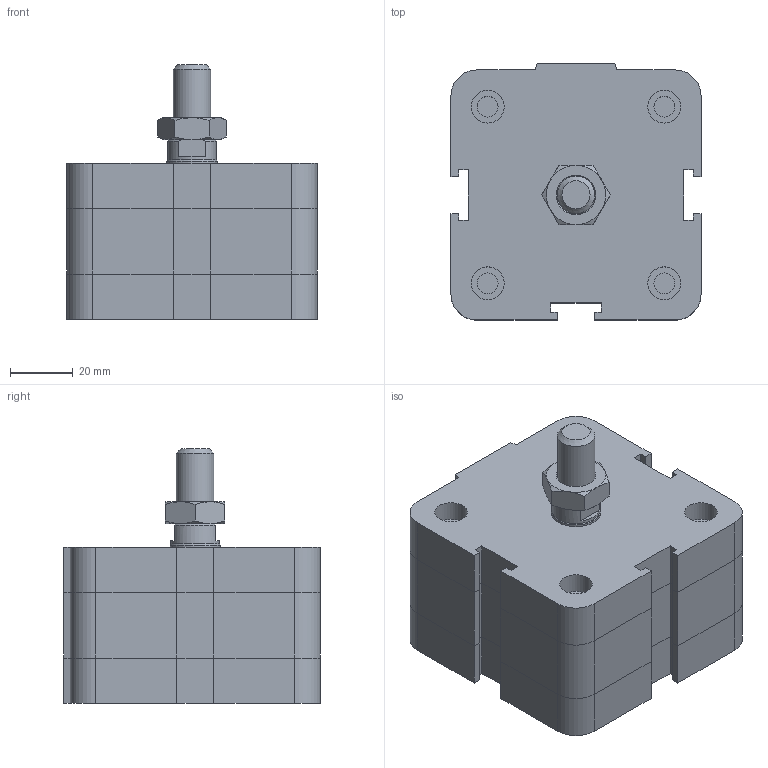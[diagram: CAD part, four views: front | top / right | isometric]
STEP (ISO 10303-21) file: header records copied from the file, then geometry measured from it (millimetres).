
FILE_DESCRIPTION((''),'2;1');
FILE_NAME('I:\Area Tecnica\Disegni\VARIE-3D\Componenti\EUROPE\15##_###_####_02_#\1561_63_0000_02_1.stp','2008-12-19T16:04:39',('rivolro1'),(''),'Autodesk Inventor 2009','Autodesk Inventor 2009','');
FILE_SCHEMA(('AUTOMOTIVE_DESIGN { 1 0 10303 214 1 1 1 1 }'));
Length unit declared in the file: millimetre
Products named in the file (4): 1561_63_0000_02_1; 1561_63_0000_01_1_C; 1561_63_0000_02_1_S; DBFM12
Assembly tree (3 placements, depth 2):
  1561_63_0000_02_1
    1561_63_0000_01_1_C
    1561_63_0000_02_1_S
    DBFM12
Bounding box: 80 x 82 x 81.5 mm (x, y, z)
Volume: 304282.6 mm3; surface area: 39709.9 mm2
Topology: 3 solids, 3 shells, 187 faces, 401 edges, 240 vertices
Faces by surface type: plane 121, bspline 24, cylinder 24, cone 18
Full cylindrical faces by diameter (mm): 6.647 x4, 10.5 x4, 10.8 x1, 12 x1, 15.6 x1, 16 x1
Entity records: 5080 total; most frequent: CARTESIAN_POINT 1096, DIRECTION 758, ORIENTED_EDGE 724, EDGE_CURVE 362, AXIS2_PLACEMENT_3D 254, VECTOR 250, LINE 250, EDGE_LOOP 238
